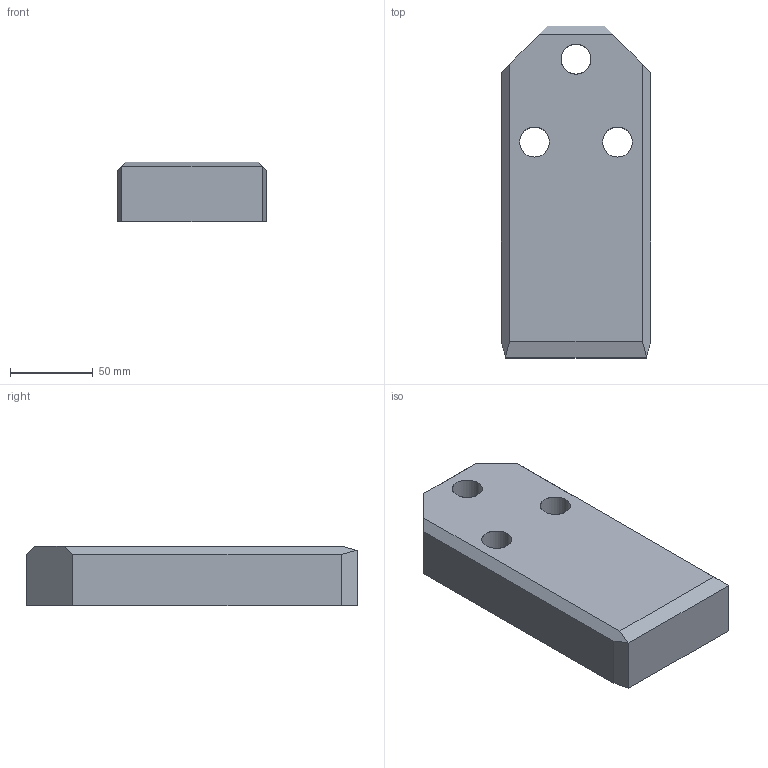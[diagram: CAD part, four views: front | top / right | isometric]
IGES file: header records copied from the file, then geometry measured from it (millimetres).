
Start section: START RECORD GO HERE.
Global section: file name: A927-90X200X36.igs; native system: DASSAULT SYSTEMES CATIA V5 R20 - www.3ds.com; preprocessor: CATIA Version 5 Release 20 ; author: Utente; organization: NB04-ASUS; date: 20200408.202607; units: millimetre
Bounding box: 90 x 200 x 36 mm (x, y, z)
Surface area: 58449.4 mm2 (no closed solid volume)
Topology: 0 solids, 0 shells, 35 faces, 168 edges, 168 vertices
Faces by surface type: revolution 18, extrusion 17
